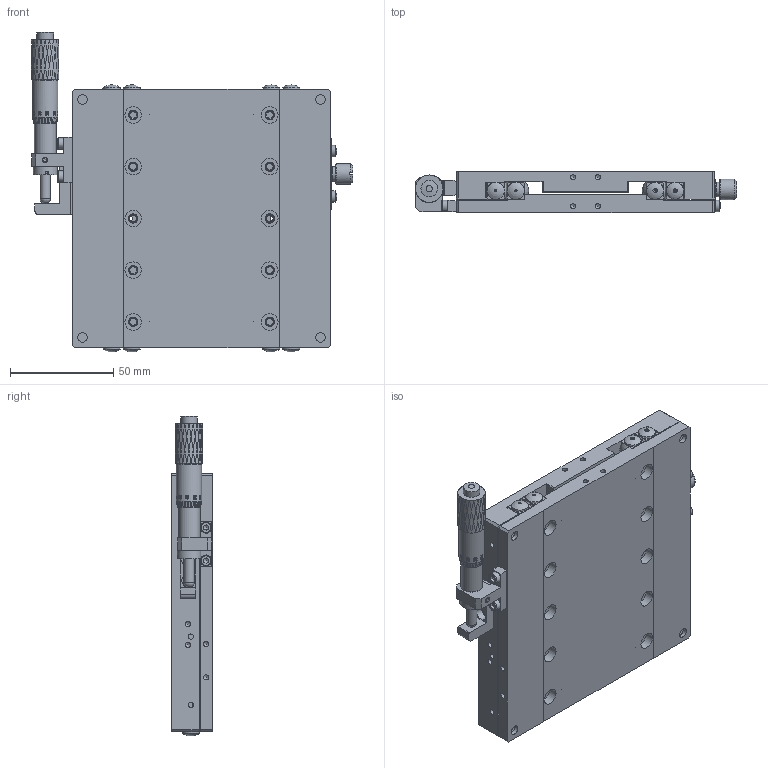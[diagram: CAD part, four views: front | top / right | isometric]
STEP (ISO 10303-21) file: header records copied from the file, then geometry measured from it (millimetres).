
FILE_DESCRIPTION (( 'STEP AP203' ), '1' );
FILE_NAME ('BPEA125.STEP', '2024-07-27T03:57:12', ( 'Windows User' ), ( 'P R C' ), 'SwSTEP 2.0', 'SolidWorks 2024', '' );
FILE_SCHEMA (( 'CONFIG_CONTROL_DESIGN' ));
Products named in the file (1): BPEA125
Bounding box: 155.15 x 20 x 154.55 mm (x, y, z)
Volume: 273033.9 mm3; surface area: 119444.6 mm2
Topology: 20 solids, 20 shells, 1878 faces, 4772 edges, 3086 vertices
Faces by surface type: plane 670, bspline 562, cylinder 380, cone 252, torus 11, sphere 3
Full cylindrical faces by diameter (mm): 2.5 x35, 2.95 x9, 3 x39, 3.1 x2, 3.2 x2, 3.3 x36, 3.4 x2, 4.5 x24, 5 x2, 5.5 x2, 5.6 x2, 6 x22, 7 x1, 8 x26, 8.1 x1, 9 x1, 9.5 x2, 10 x1, 10.373 x1, 11.5 x1, 12.25 x1, 13.3 x1
Entity records: 96430 total; most frequent: CARTESIAN_POINT 58394, ORIENTED_EDGE 8594, DIRECTION 5518, EDGE_CURVE 4297, VERTEX_POINT 2991, EDGE_LOOP 2674, FACE_OUTER_BOUND 2080, AXIS2_PLACEMENT_3D 2072
